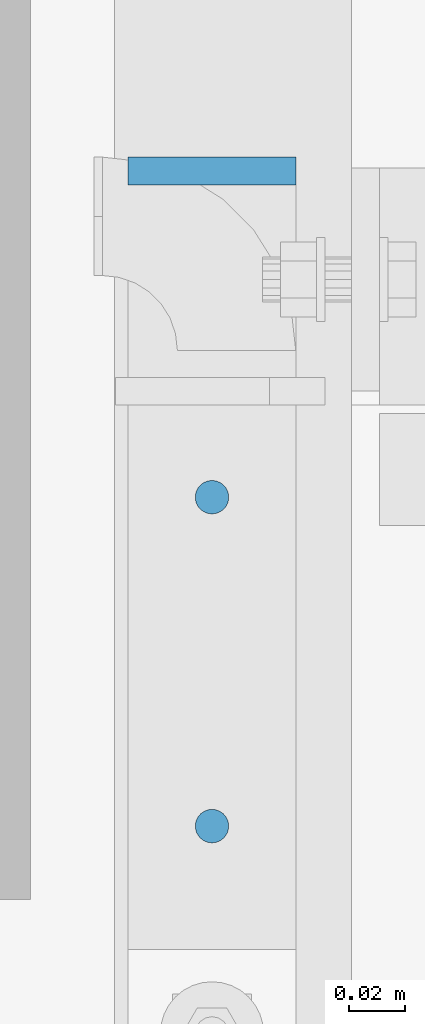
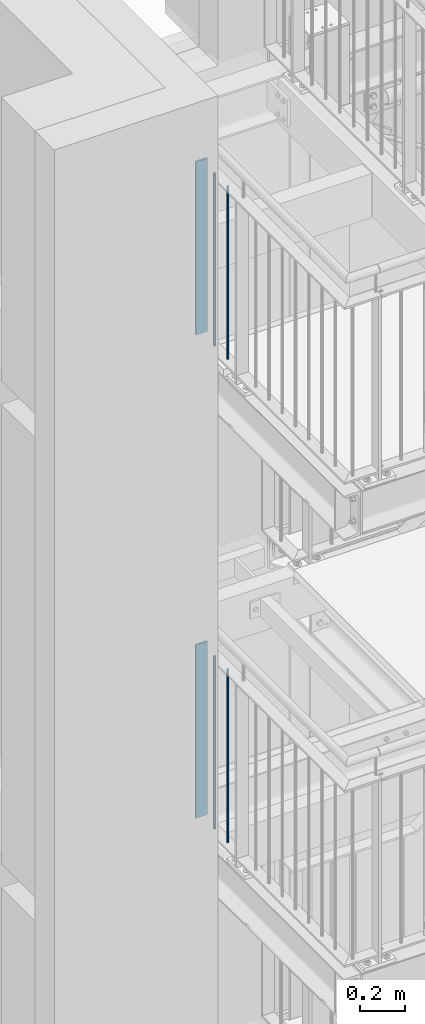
# One storey, part 14 of 825: 6 columns.
"""IFC2X3 building model written with IfcOpenShell, lengths in millimetres."""

from ifc_helpers import new_model, entity, si_unit, converted_unit, frame, origin, origin_with_axes, origin_2d, place, context, project, spatial, rectangle, circle, extrude, clip, halfspace, material, element, save


model = new_model("IFC2X3")

# Units and contexts
model_context = context("Model", 3, precision=1e-09, world=origin_with_axes())
ifc_project = project(units=[si_unit("LENGTHUNIT", "METRE", prefix="MILLI"), si_unit("AREAUNIT", "SQUARE_METRE"), si_unit("VOLUMEUNIT", "CUBIC_METRE"), converted_unit("PLANEANGLEUNIT", "DEGREE", entity("IfcPlaneAngleMeasure", 0.01745329), si_unit("PLANEANGLEUNIT", "RADIAN"), dimensions=[0, 0, 0, 0, 0, 0, 0])], contexts=[model_context])

# Site, building, storey
site_placement = place(None, origin_with_axes())
site = spatial("IfcSite", under=ifc_project, at=site_placement, Name="Cnopf'sche Kinderklinik", CompositionType="ELEMENT")
building_placement = place(site_placement, origin_with_axes())
building = spatial("IfcBuilding", under=site, at=building_placement, Name="Struktur 1", CompositionType="ELEMENT")
storey_placement = place(building_placement, origin_with_axes())
storey = spatial("IfcBuildingStorey", under=building, at=storey_placement, Name="Default Storey", CompositionType="ELEMENT", Elevation=0.0)

# Columns
ifc_material = material(Name="S235JR")
column_1_placement = place(None, frame((3271.713402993, 5703.786135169, 18856.285281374), z_axis=(0.0, 0.0, -1.0), x_axis=(0.0, -1.0, 0.0)))
element("IfcColumn", 1, at=column_1_placement, inside=storey, material=ifc_material, Name="Railing_Picket_Landing#96", ObjectType="Railing_Picket_Landing#96", context=model_context, shape_type="Clipping", body=[
    clip(clip(extrude(circle(Radius=6.0, at=origin_2d()), origin(), (0.0, 0.0, 1.0), 965.770562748), halfspace(frame((5703.786135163, 3271.713402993, 13.486281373), z_axis=(0.0, 0.0, 1.0), x_axis=(0.0, 1.0, 0.0)), True)), halfspace(frame((5703.786135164, 3271.713402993, 952.284281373), z_axis=(0.0, 0.0, -1.0), x_axis=(0.0, -1.0, 0.0)), True)),
])
column_2_placement = place(None, frame((3271.713402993, 5585.988971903, 18856.285281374), z_axis=(0.0, 0.0, -1.0), x_axis=(0.0, -1.0, 0.0)))
element("IfcColumn", 2, at=column_2_placement, inside=storey, material=ifc_material, Name="Railing_Picket_Landing#97", ObjectType="Railing_Picket_Landing#97", context=model_context, shape_type="Clipping", body=[
    clip(clip(extrude(circle(Radius=6.0, at=origin_2d()), origin(), (0.0, 0.0, 1.0), 965.770562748), halfspace(frame((5585.988971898, 3271.713402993, 13.486281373), z_axis=(0.0, 0.0, 1.0), x_axis=(0.0, 1.0, 0.0)), True)), halfspace(frame((5585.988971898, 3271.713402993, 952.284281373), z_axis=(0.0, 0.0, -1.0), x_axis=(0.0, -1.0, 0.0)), True)),
])
column_3_placement = place(None, frame((3271.713402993, 5820.583298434, 17904.0), z_axis=(0.0, 0.0, -1.0), x_axis=(0.0, 1.0, 0.0)))
element("IfcColumn", 3, at=column_3_placement, inside=storey, material=ifc_material, Name="Railing_Kneerail_Landing#22", ObjectType="Railing_Kneerail_Landing#22", context=model_context, shape_type="SweptSolid", body=[
    extrude(rectangle(XDim=10.0, YDim=60.0, at=origin_2d()), origin(), (0.0, 0.0, -1.0), 938.8),
])
column_4_placement = place(None, frame((3271.713402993, 5585.988971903, 16236.285281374), z_axis=(0.0, 0.0, -1.0), x_axis=(0.0, -1.0, 0.0)))
element("IfcColumn", 4, at=column_4_placement, inside=storey, material=ifc_material, Name="Railing_Picket_Landing#97", ObjectType="Railing_Picket_Landing#97", context=model_context, shape_type="Clipping", body=[
    clip(clip(extrude(circle(Radius=6.0, at=origin_2d()), origin(), (0.0, 0.0, 1.0), 965.770562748), halfspace(frame((5585.988971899, 3271.713402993, 13.486281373), z_axis=(0.0, 0.0, 1.0), x_axis=(0.0, 1.0, 0.0)), True)), halfspace(frame((5585.988971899, 3271.713402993, 952.284281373), z_axis=(0.0, 0.0, -1.0), x_axis=(0.0, -1.0, 0.0)), True)),
])
column_5_placement = place(None, frame((3271.713402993, 5703.786135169, 16236.285281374), z_axis=(0.0, 0.0, -1.0), x_axis=(0.0, -1.0, 0.0)))
element("IfcColumn", 5, at=column_5_placement, inside=storey, material=ifc_material, Name="Railing_Picket_Landing#96", ObjectType="Railing_Picket_Landing#96", context=model_context, shape_type="Clipping", body=[
    clip(clip(extrude(circle(Radius=6.0, at=origin_2d()), origin(), (0.0, 0.0, 1.0), 965.770562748), halfspace(frame((5703.786135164, 3271.713402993, 13.486281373), z_axis=(0.0, 0.0, 1.0), x_axis=(0.0, 1.0, 0.0)), True)), halfspace(frame((5703.786135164, 3271.713402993, 952.284281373), z_axis=(0.0, 0.0, -1.0), x_axis=(0.0, -1.0, 0.0)), True)),
])
column_6_placement = place(None, frame((3271.713402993, 5820.583298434, 15284.0), z_axis=(0.0, 0.0, -1.0), x_axis=(0.0, 1.0, 0.0)))
element("IfcColumn", 6, at=column_6_placement, inside=storey, material=ifc_material, Name="Railing_Kneerail_Landing#22", ObjectType="Railing_Kneerail_Landing#22", context=model_context, shape_type="SweptSolid", body=[
    extrude(rectangle(XDim=10.0, YDim=60.0, at=origin_2d()), origin(), (0.0, 0.0, -1.0), 938.8),
])

save(model, "model.ifc")
